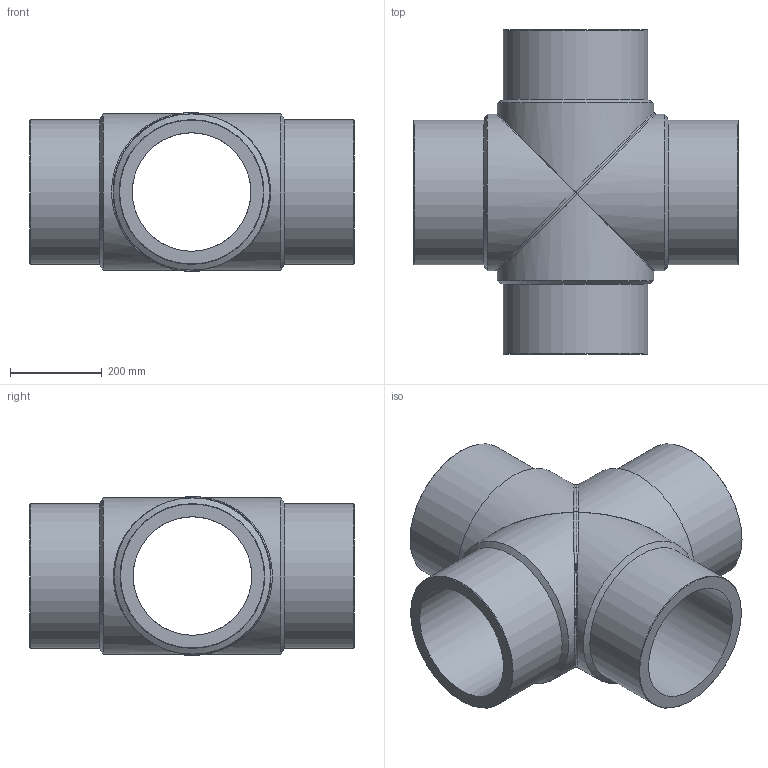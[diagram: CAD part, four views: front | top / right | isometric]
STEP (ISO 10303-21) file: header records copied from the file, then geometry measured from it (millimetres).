
FILE_DESCRIPTION(/* description */ ('Unknown'),/* implementation_level */ '2;1');
FILE_NAME(/* name */ 'CRP315C',/* time_stamp */ '2022-07-07T17:10:01+02:00',/* author */ ('Unknown'),/* organization */ ('Unknown'),/* preprocessor_version */ 'ST-DEVELOPER v18.102',/* originating_system */ 'Solid Edge',/* authorisation */ 'Unknown');
FILE_SCHEMA (('AUTOMOTIVE_DESIGN {1 0 10303 214 3 1 1}'));
Length unit declared in the file: millimetre
Products named in the file (3): CRP315C; CRP315C_mir
Assembly tree (2 placements, depth 2):
  CRP315C
    CRP315C
    CRP315C_mir
Bounding box: 706 x 706 x 344.99 mm (x, y, z)
Volume: 31711884.1 mm3; surface area: 2116815.1 mm2
Topology: 2 solids, 2 shells, 32 faces, 146 edges, 116 vertices
Faces by surface type: cylinder 12, cone 8, plane 6, bspline 6
Full cylindrical faces by diameter (mm): 257.8 x4, 315 x4, 340 x4
Entity records: 4189 total; most frequent: CARTESIAN_POINT 3181, ORIENTED_EDGE 232, DIRECTION 126, EDGE_CURVE 116, VERTEX_POINT 106, B_SPLINE_CURVE_WITH_KNOTS 82, AXIS2_PLACEMENT_3D 63, EDGE_LOOP 58
